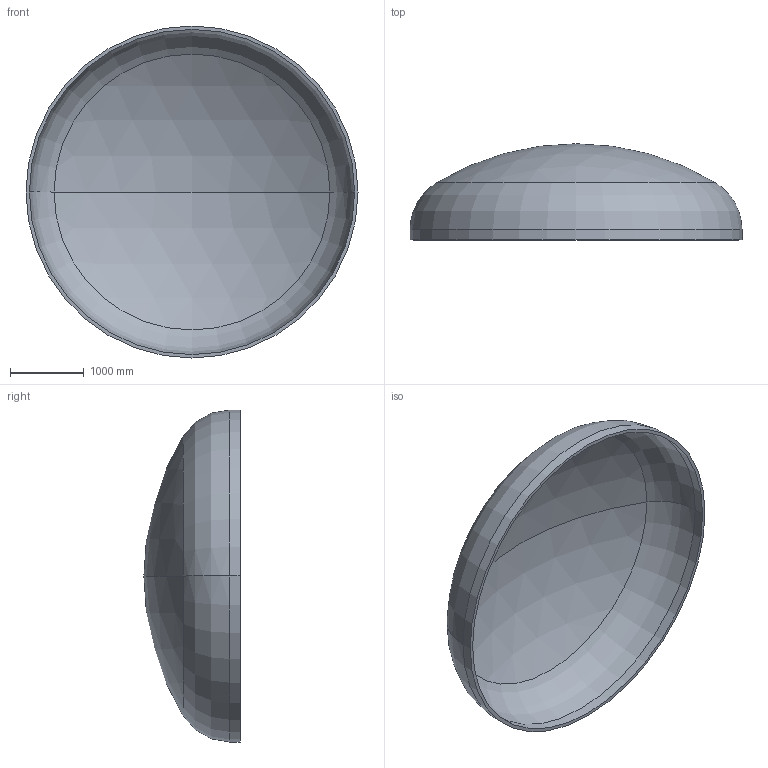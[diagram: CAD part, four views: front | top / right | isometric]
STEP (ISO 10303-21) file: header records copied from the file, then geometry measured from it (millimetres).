
FILE_DESCRIPTION (( 'STEP AP203' ), '1' );
FILE_NAME ('DIN 28013 Korbbogenform_-_Boden DIN 28013 - 4500 x 140 - I - s=46.step', '2016-07-01T23:28:51', ( '' ), ( '' ), 'SwSTEP 2.0', 'SolidWorks 2013', '' );
FILE_SCHEMA (( 'CONFIG_CONTROL_DESIGN' ));
Length unit declared in the file: millimetre
Products named in the file (1): DIN 28013 Korbbogenform_-_Boden DIN 28013 - 4500 x 140 - I - s=46
Bounding box: 4500 x 1303.67 x 4500 mm (x, y, z)
Volume: 1090326355.6 mm3; surface area: 48053570.2 mm2
Topology: 1 solids, 1 shells, 13 faces, 24 edges, 14 vertices
Faces by surface type: torus 4, cylinder 4, sphere 4, plane 1
Entity records: 407 total; most frequent: DIRECTION 72, CARTESIAN_POINT 52, ORIENTED_EDGE 48, AXIS2_PLACEMENT_3D 34, EDGE_CURVE 24, CIRCLE 20, EDGE_LOOP 14, VERTEX_POINT 14
